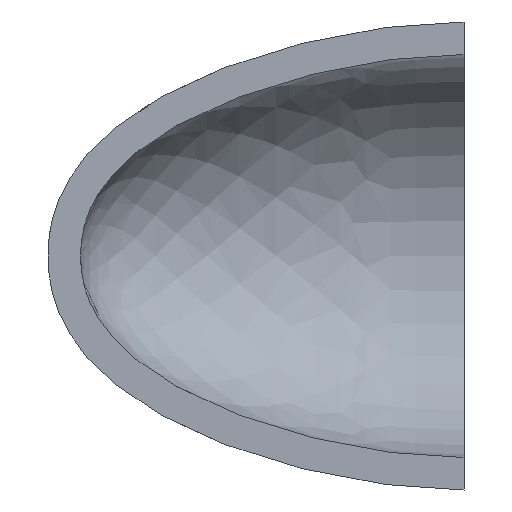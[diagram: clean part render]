
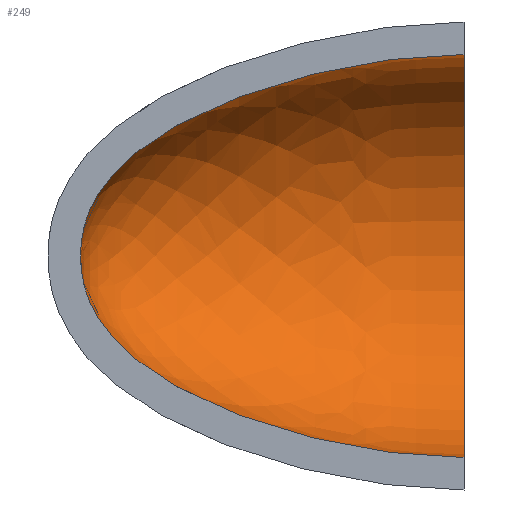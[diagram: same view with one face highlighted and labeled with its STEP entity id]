
A CAD part, left-side view. The second image highlights one B-rep face of the part: STEP entity #249.
In plain terms, the highlighted face is a revolution surface.
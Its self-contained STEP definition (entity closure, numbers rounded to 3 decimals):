
#100=CARTESIAN_POINT('Axis2P3D Location',(0.,0.,0.)) ;
#104=CARTESIAN_POINT('Vertex',(0.,0.,62.)) ;
#106=CARTESIAN_POINT('Vertex',(0.,0.,-62.)) ;
#132=CARTESIAN_POINT('Control Point',(0.,0.,-62.)) ;
#133=CARTESIAN_POINT('Control Point',(0.,2.098,-62.)) ;
#134=CARTESIAN_POINT('Control Point',(0.,4.218,-61.962)) ;
#135=CARTESIAN_POINT('Control Point',(0.,6.358,-61.887)) ;
#136=CARTESIAN_POINT('Control Point',(0.,12.012,-61.596)) ;
#137=CARTESIAN_POINT('Control Point',(0.,17.778,-61.065)) ;
#138=CARTESIAN_POINT('Control Point',(0.,21.378,-60.649)) ;
#139=CARTESIAN_POINT('Control Point',(0.,29.031,-59.593)) ;
#140=CARTESIAN_POINT('Control Point',(0.,36.755,-58.169)) ;
#141=CARTESIAN_POINT('Control Point',(0.,40.831,-57.32)) ;
#142=CARTESIAN_POINT('Control Point',(0.,49.426,-55.319)) ;
#143=CARTESIAN_POINT('Control Point',(0.,57.944,-52.874)) ;
#144=CARTESIAN_POINT('Control Point',(0.,62.388,-51.462)) ;
#145=CARTESIAN_POINT('Control Point',(0.,71.156,-48.38)) ;
#146=CARTESIAN_POINT('Control Point',(0.,79.584,-44.752)) ;
#147=CARTESIAN_POINT('Control Point',(0.,83.687,-42.794)) ;
#148=CARTESIAN_POINT('Control Point',(0.,89.811,-39.529)) ;
#149=CARTESIAN_POINT('Control Point',(0.,95.47,-35.882)) ;
#150=CARTESIAN_POINT('Control Point',(0.,97.407,-34.542)) ;
#151=CARTESIAN_POINT('Control Point',(0.,100.909,-31.928)) ;
#152=CARTESIAN_POINT('Control Point',(0.,104.107,-29.142)) ;
#153=CARTESIAN_POINT('Control Point',(0.,105.531,-27.799)) ;
#154=CARTESIAN_POINT('Control Point',(0.,108.108,-25.15)) ;
#155=CARTESIAN_POINT('Control Point',(0.,110.361,-22.373)) ;
#156=CARTESIAN_POINT('Control Point',(0.,111.361,-21.014)) ;
#157=CARTESIAN_POINT('Control Point',(0.,112.942,-18.622)) ;
#158=CARTESIAN_POINT('Control Point',(0.,114.269,-16.15)) ;
#159=CARTESIAN_POINT('Control Point',(0.,114.78,-15.097)) ;
#160=CARTESIAN_POINT('Control Point',(0.,115.856,-12.627)) ;
#161=CARTESIAN_POINT('Control Point',(0.,116.682,-10.075)) ;
#162=CARTESIAN_POINT('Control Point',(0.,117.071,-8.597)) ;
#163=CARTESIAN_POINT('Control Point',(0.,117.593,-6.033)) ;
#164=CARTESIAN_POINT('Control Point',(0.,117.882,-3.377)) ;
#165=CARTESIAN_POINT('Control Point',(0.,117.961,-2.267)) ;
#166=CARTESIAN_POINT('Control Point',(0.,118.,-1.141)) ;
#167=CARTESIAN_POINT('Control Point',(0.,118.,0.)) ;
#168=CARTESIAN_POINT('Vertex',(0.,118.,0.)) ;
#172=CARTESIAN_POINT('Control Point',(0.,0.,62.)) ;
#173=CARTESIAN_POINT('Control Point',(0.,2.098,62.)) ;
#174=CARTESIAN_POINT('Control Point',(0.,4.218,61.962)) ;
#175=CARTESIAN_POINT('Control Point',(0.,6.358,61.887)) ;
#176=CARTESIAN_POINT('Control Point',(0.,12.012,61.596)) ;
#177=CARTESIAN_POINT('Control Point',(0.,17.778,61.065)) ;
#178=CARTESIAN_POINT('Control Point',(0.,21.378,60.649)) ;
#179=CARTESIAN_POINT('Control Point',(0.,29.031,59.593)) ;
#180=CARTESIAN_POINT('Control Point',(0.,36.755,58.169)) ;
#181=CARTESIAN_POINT('Control Point',(0.,40.831,57.32)) ;
#182=CARTESIAN_POINT('Control Point',(0.,49.426,55.319)) ;
#183=CARTESIAN_POINT('Control Point',(0.,57.944,52.874)) ;
#184=CARTESIAN_POINT('Control Point',(0.,62.388,51.462)) ;
#185=CARTESIAN_POINT('Control Point',(0.,71.156,48.38)) ;
#186=CARTESIAN_POINT('Control Point',(0.,79.584,44.752)) ;
#187=CARTESIAN_POINT('Control Point',(0.,83.687,42.794)) ;
#188=CARTESIAN_POINT('Control Point',(0.,89.811,39.529)) ;
#189=CARTESIAN_POINT('Control Point',(0.,95.47,35.882)) ;
#190=CARTESIAN_POINT('Control Point',(0.,97.407,34.542)) ;
#191=CARTESIAN_POINT('Control Point',(0.,100.909,31.928)) ;
#192=CARTESIAN_POINT('Control Point',(0.,104.107,29.142)) ;
#193=CARTESIAN_POINT('Control Point',(0.,105.531,27.799)) ;
#194=CARTESIAN_POINT('Control Point',(0.,108.108,25.15)) ;
#195=CARTESIAN_POINT('Control Point',(0.,110.361,22.373)) ;
#196=CARTESIAN_POINT('Control Point',(0.,111.361,21.014)) ;
#197=CARTESIAN_POINT('Control Point',(0.,112.942,18.622)) ;
#198=CARTESIAN_POINT('Control Point',(0.,114.269,16.15)) ;
#199=CARTESIAN_POINT('Control Point',(0.,114.78,15.097)) ;
#200=CARTESIAN_POINT('Control Point',(0.,115.856,12.627)) ;
#201=CARTESIAN_POINT('Control Point',(0.,116.682,10.075)) ;
#202=CARTESIAN_POINT('Control Point',(0.,117.071,8.597)) ;
#203=CARTESIAN_POINT('Control Point',(0.,117.593,6.033)) ;
#204=CARTESIAN_POINT('Control Point',(0.,117.882,3.377)) ;
#205=CARTESIAN_POINT('Control Point',(0.,117.961,2.267)) ;
#206=CARTESIAN_POINT('Control Point',(0.,118.,1.141)) ;
#207=CARTESIAN_POINT('Control Point',(0.,118.,0.)) ;
#219=CARTESIAN_POINT('Control Point',(0.,0.,62.)) ;
#220=CARTESIAN_POINT('Control Point',(0.,6.867,62.)) ;
#221=CARTESIAN_POINT('Control Point',(0.,14.179,61.592)) ;
#222=CARTESIAN_POINT('Control Point',(0.,21.929,60.763)) ;
#223=CARTESIAN_POINT('Control Point',(0.,38.035,58.251)) ;
#224=CARTESIAN_POINT('Control Point',(0.,54.639,54.04)) ;
#225=CARTESIAN_POINT('Control Point',(0.,62.885,51.511)) ;
#226=CARTESIAN_POINT('Control Point',(0.,74.816,47.092)) ;
#227=CARTESIAN_POINT('Control Point',(0.,85.558,41.806)) ;
#228=CARTESIAN_POINT('Control Point',(0.,88.977,39.952)) ;
#229=CARTESIAN_POINT('Control Point',(0.,95.434,36.071)) ;
#230=CARTESIAN_POINT('Control Point',(0.,101.03,31.883)) ;
#231=CARTESIAN_POINT('Control Point',(0.,103.588,29.72)) ;
#232=CARTESIAN_POINT('Control Point',(0.,108.186,25.283)) ;
#233=CARTESIAN_POINT('Control Point',(0.,111.731,20.651)) ;
#234=CARTESIAN_POINT('Control Point',(0.,113.234,18.293)) ;
#235=CARTESIAN_POINT('Control Point',(0.,115.727,13.488)) ;
#236=CARTESIAN_POINT('Control Point',(0.,117.226,8.393)) ;
#237=CARTESIAN_POINT('Control Point',(0.,117.736,5.747)) ;
#238=CARTESIAN_POINT('Control Point',(0.,118.,2.957)) ;
#239=CARTESIAN_POINT('Control Point',(0.,118.,0.)) ;
#240=CARTESIAN_POINT('Axis1P Location',(0.,0.,0.)) ;
#101=DIRECTION('Axis2P3D Direction',(0.,1.,0.)) ;
#241=DIRECTION('Axis1P Direction',(0.,1.,0.)) ;
#102=AXIS2_PLACEMENT_3D('Circle Axis2P3D',#100,#101,$) ;
#245=ORIENTED_EDGE('',*,*,#108,.F.) ;
#246=ORIENTED_EDGE('',*,*,#208,.T.) ;
#247=ORIENTED_EDGE('',*,*,#170,.F.) ;
#249=ADVANCED_FACE('PartBody',(#248),#243,.F.) ;
#242=AXIS1_PLACEMENT('Revolution Surface Axis1P',#240,#241) ;
#131=B_SPLINE_CURVE_WITH_KNOTS('',5,(#132,#133,#134,#135,#136,#137,#138,#139,#140,#141,#142,#143,#144,#145,#146,#147,#148,#149,#150,#151,#152,#153,#154,#155,#156,#157,#158,#159,#160,#161,#162,#163,#164,#165,#166,#167),.UNSPECIFIED.,.F.,.U.,(6,3,3,3,3,3,3,3,3,3,3,6),(0.,15.356,40.216,67.878,98.623,129.345,146.183,161.019,174.664,184.548,197.525,206.619),.UNSPECIFIED.) ;
#171=B_SPLINE_CURVE_WITH_KNOTS('',5,(#172,#173,#174,#175,#176,#177,#178,#179,#180,#181,#182,#183,#184,#185,#186,#187,#188,#189,#190,#191,#192,#193,#194,#195,#196,#197,#198,#199,#200,#201,#202,#203,#204,#205,#206,#207),.UNSPECIFIED.,.F.,.U.,(6,3,3,3,3,3,3,3,3,3,3,6),(0.,15.356,40.216,67.878,98.623,129.345,146.183,161.019,174.664,184.548,197.525,206.619),.UNSPECIFIED.) ;
#218=B_SPLINE_CURVE_WITH_KNOTS('',5,(#219,#220,#221,#222,#223,#224,#225,#226,#227,#228,#229,#230,#231,#232,#233,#234,#235,#236,#237,#238,#239),.UNSPECIFIED.,.F.,.U.,(6,3,3,3,3,3,6),(0.,36.715,73.43,91.788,110.145,128.503,146.86),.UNSPECIFIED.) ;
#103=CIRCLE('generated circle',#102,62.) ;
#108=EDGE_CURVE('',#105,#107,#103,.T.) ;
#170=EDGE_CURVE('',#107,#169,#131,.T.) ;
#208=EDGE_CURVE('',#105,#169,#171,.T.) ;
#244=EDGE_LOOP('',(#245,#246,#247)) ;
#248=FACE_OUTER_BOUND('',#244,.T.) ;
#243=SURFACE_OF_REVOLUTION('Surface of Revolution',#218,#242) ;
#105=VERTEX_POINT('',#104) ;
#107=VERTEX_POINT('',#106) ;
#169=VERTEX_POINT('',#168) ;
